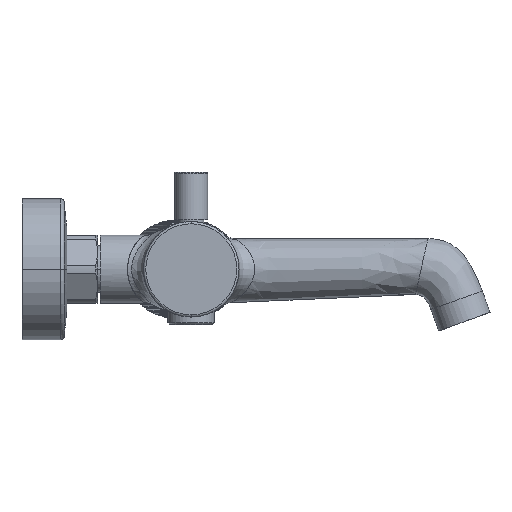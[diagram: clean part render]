
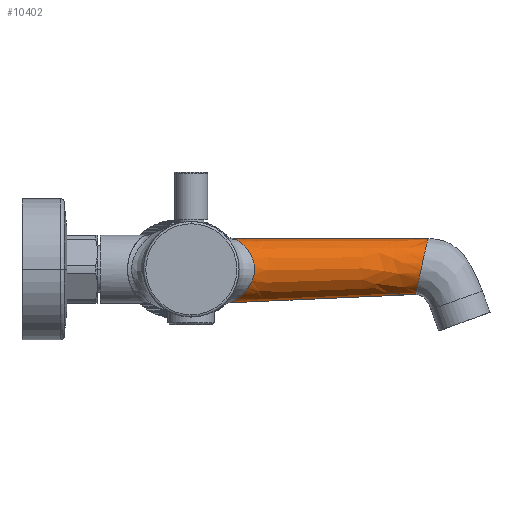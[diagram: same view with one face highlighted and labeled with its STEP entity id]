
A CAD part, front view. The second image highlights one B-rep face of the part: STEP entity #10402.
In plain terms, the highlighted free-form (B-spline) face has degree [3, 3] with [9, 4] control points.
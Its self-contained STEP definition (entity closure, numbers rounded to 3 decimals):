
#314=CARTESIAN_POINT('',(22.978,-31.145,135.271));
#315=CARTESIAN_POINT('',(23.118,-31.518,135.177));
#316=CARTESIAN_POINT('',(23.455,-32.3,134.948));
#317=CARTESIAN_POINT('',(24.135,-33.541,134.457));
#318=CARTESIAN_POINT('',(25.01,-34.866,133.772));
#319=CARTESIAN_POINT('',(26.056,-36.23,132.854));
#320=CARTESIAN_POINT('',(27.135,-37.494,131.755));
#321=CARTESIAN_POINT('',(28.128,-38.568,130.564));
#322=CARTESIAN_POINT('',(28.977,-39.444,129.339));
#323=CARTESIAN_POINT('',(29.668,-40.137,128.115));
#324=CARTESIAN_POINT('',(30.211,-40.672,126.905));
#325=CARTESIAN_POINT('',(30.614,-41.07,125.721));
#326=CARTESIAN_POINT('',(30.894,-41.351,124.557));
#327=CARTESIAN_POINT('',(31.06,-41.53,123.402));
#328=CARTESIAN_POINT('',(31.117,-41.612,122.257));
#329=CARTESIAN_POINT('',(31.069,-41.602,121.108));
#330=CARTESIAN_POINT('',(30.913,-41.499,119.949));
#331=CARTESIAN_POINT('',(30.638,-41.295,118.762));
#332=CARTESIAN_POINT('',(30.238,-40.98,117.555));
#333=CARTESIAN_POINT('',(29.701,-40.541,116.324));
#334=CARTESIAN_POINT('',(28.997,-39.951,115.051));
#335=CARTESIAN_POINT('',(28.121,-39.188,113.758));
#336=CARTESIAN_POINT('',(27.058,-38.225,112.463));
#337=CARTESIAN_POINT('',(25.819,-37.031,111.195));
#338=CARTESIAN_POINT('',(24.562,-35.714,110.106));
#339=CARTESIAN_POINT('',(23.489,-34.455,109.288));
#340=CARTESIAN_POINT('',(22.593,-33.252,108.668));
#341=CARTESIAN_POINT('',(21.878,-32.115,108.211));
#342=CARTESIAN_POINT('',(21.338,-31.041,107.884));
#343=CARTESIAN_POINT('',(20.965,-30.046,107.666));
#344=CARTESIAN_POINT('',(20.734,-29.132,107.536));
#345=CARTESIAN_POINT('',(20.618,-28.26,107.471));
#346=CARTESIAN_POINT('',(20.611,-27.694,107.467));
#347=CARTESIAN_POINT('',(20.623,-27.417,107.474));
#349=CARTESIAN_POINT('',(22.331,-28.037,135.689));
#350=CARTESIAN_POINT('',(22.334,-28.133,135.687));
#351=CARTESIAN_POINT('',(22.39,-29.2,135.652));
#352=CARTESIAN_POINT('',(22.633,-30.229,135.5));
#353=CARTESIAN_POINT('',(22.978,-31.145,135.271));
#355=DIRECTION('',(-1.,0.,0.));
#356=VECTOR('',#355,84.921);
#357=CARTESIAN_POINT('',(107.252,-28.054,135.688));
#358=LINE('',#357,#356);
#359=CARTESIAN_POINT('',(101.789,-27.729,111.106));
#360=CARTESIAN_POINT('',(101.79,-29.353,111.107));
#361=CARTESIAN_POINT('',(101.936,-32.601,111.767));
#362=CARTESIAN_POINT('',(102.555,-36.673,114.553));
#363=CARTESIAN_POINT('',(103.464,-39.342,118.641));
#364=CARTESIAN_POINT('',(104.521,-40.267,123.399));
#365=CARTESIAN_POINT('',(105.579,-39.342,128.157));
#366=CARTESIAN_POINT('',(106.487,-36.673,132.246));
#367=CARTESIAN_POINT('',(107.003,-33.279,134.566));
#368=CARTESIAN_POINT('',(107.21,-30.269,135.497));
#369=CARTESIAN_POINT('',(107.248,-28.757,135.669));
#370=CARTESIAN_POINT('',(107.252,-28.054,135.688));
#372=CARTESIAN_POINT('',(101.79,-27.401,111.11));
#373=CARTESIAN_POINT('',(101.79,-27.51,111.107));
#374=CARTESIAN_POINT('',(101.789,-27.62,111.106));
#375=CARTESIAN_POINT('',(101.789,-27.729,111.106));
#377=DIRECTION('',(-0.999,0.,-0.045));
#378=VECTOR('',#377,81.249);
#379=CARTESIAN_POINT('',(101.79,-27.401,111.11));
#380=LINE('',#379,#378);
#8521=CARTESIAN_POINT('',(101.79,-27.401,111.11));
#8522=CARTESIAN_POINT('',(20.623,-27.417,107.474));
#8523=VERTEX_POINT('',#8521);
#8524=VERTEX_POINT('',#8522);
#8525=CARTESIAN_POINT('',(107.252,-28.054,135.688));
#8526=CARTESIAN_POINT('',(22.331,-28.037,135.689));
#8527=VERTEX_POINT('',#8525);
#8528=VERTEX_POINT('',#8526);
#8538=VERTEX_POINT('',#353);
#8539=VERTEX_POINT('',#359);
#10353=CARTESIAN_POINT('',(18.88,-27.148,
135.68));
#10354=CARTESIAN_POINT('',(48.915,-27.196,
135.682));
#10355=CARTESIAN_POINT('',(78.95,-27.244,
135.683));
#10356=CARTESIAN_POINT('',(108.985,-27.292,
135.684));
#10357=CARTESIAN_POINT('',(18.88,-27.444,
135.692));
#10358=CARTESIAN_POINT('',(48.915,-27.478,
135.693));
#10359=CARTESIAN_POINT('',(78.95,-27.512,
135.693));
#10360=CARTESIAN_POINT('',(108.985,-27.546,
135.694));
#10361=CARTESIAN_POINT('',(18.88,-31.447,
135.734));
#10362=CARTESIAN_POINT('',(48.915,-31.291,
135.726));
#10363=CARTESIAN_POINT('',(78.95,-31.135,
135.719));
#10364=CARTESIAN_POINT('',(108.985,-30.979,
135.711));
#10365=CARTESIAN_POINT('',(18.88,-39.051,
132.386));
#10366=CARTESIAN_POINT('',(48.915,-38.529,
132.527));
#10367=CARTESIAN_POINT('',(78.95,-38.006,
132.668));
#10368=CARTESIAN_POINT('',(108.985,-37.484,
132.808));
#10369=CARTESIAN_POINT('',(18.88,-43.406,
121.199));
#10370=CARTESIAN_POINT('',(48.915,-42.661,
121.865));
#10371=CARTESIAN_POINT('',(78.95,-41.915,
122.531));
#10372=CARTESIAN_POINT('',(108.985,-41.169,
123.197));
#10373=CARTESIAN_POINT('',(18.88,-38.566,
110.213));
#10374=CARTESIAN_POINT('',(48.915,-38.034,
111.409));
#10375=CARTESIAN_POINT('',(78.95,-37.503,
112.604));
#10376=CARTESIAN_POINT('',(108.985,-36.971,
113.799));
#10377=CARTESIAN_POINT('',(18.88,-30.823,
107.202));
#10378=CARTESIAN_POINT('',(48.915,-30.655,
108.552));
#10379=CARTESIAN_POINT('',(78.95,-30.487,
109.901));
#10380=CARTESIAN_POINT('',(108.985,-30.319,
111.251));
#10381=CARTESIAN_POINT('',(18.88,-26.825,
107.418));
#10382=CARTESIAN_POINT('',(48.915,-26.848,
108.763));
#10383=CARTESIAN_POINT('',(78.95,-26.87,
110.109));
#10384=CARTESIAN_POINT('',(108.985,-26.892,
111.454));
#10385=CARTESIAN_POINT('',(18.88,-26.53,
107.443));
#10386=CARTESIAN_POINT('',(48.915,-26.566,
108.788));
#10387=CARTESIAN_POINT('',(78.95,-26.603,
110.132));
#10388=CARTESIAN_POINT('',(108.985,-26.639,
111.477));
#10389=B_SPLINE_SURFACE_WITH_KNOTS('',3,3,((#10353,#10354,#10355,#10356),
(#10357,#10358,#10359,#10360),(#10361,#10362,#10363,#10364),(#10365,#10366,
#10367,#10368),(#10369,#10370,#10371,#10372),(#10373,#10374,#10375,#10376),(
#10377,#10378,#10379,#10380),(#10381,#10382,#10383,#10384),(#10385,#10386,
#10387,#10388)),.UNSPECIFIED.,.F.,.F.,.F.,(4,1,1,1,1,1,4),(4,4),(
-0.02,0.,0.25,0.5,0.75,1.,1.02),(
0.14,0.947),.UNSPECIFIED.);
#10390=ORIENTED_EDGE('',*,*,#10346,.F.);
#10391=ORIENTED_EDGE('',*,*,#10097,.F.);
#10393=ORIENTED_EDGE('',*,*,#10392,.F.);
#10395=ORIENTED_EDGE('',*,*,#10394,.F.);
#10397=ORIENTED_EDGE('',*,*,#10396,.F.);
#10399=ORIENTED_EDGE('',*,*,#10398,.T.);
#10400=EDGE_LOOP('',(#10390,#10391,#10393,#10395,#10397,#10399));
#10401=FACE_OUTER_BOUND('',#10400,.F.);
#10402=ADVANCED_FACE('',(#10401),#10389,.T.);
#348=B_SPLINE_CURVE_WITH_KNOTS('',3,(#314,#315,#316,#317,#318,#319,#320,#321,
#322,#323,#324,#325,#326,#327,#328,#329,#330,#331,#332,#333,#334,#335,#336,#337,
#338,#339,#340,#341,#342,#343,#344,#345,#346,#347),.UNSPECIFIED.,.F.,.F.,(4,1,1,
1,1,1,1,1,1,1,1,1,1,1,1,1,1,1,1,1,1,1,1,1,1,1,1,1,1,1,1,4),(0.,
0.032,0.065,0.097,0.129,
0.161,0.194,0.226,0.258,
0.29,0.323,0.355,0.387,
0.419,0.452,0.484,0.516,
0.548,0.581,0.613,0.645,
0.677,0.71,0.742,0.774,
0.806,0.839,0.871,0.903,
0.935,0.968,1.),.UNSPECIFIED.);
#354=B_SPLINE_CURVE_WITH_KNOTS('',3,(#349,#350,#351,#352,#353),.UNSPECIFIED.,
.F.,.F.,(4,1,4),(0.,0.09,1.),.UNSPECIFIED.);
#371=B_SPLINE_CURVE_WITH_KNOTS('',3,(#359,#360,#361,#362,#363,#364,#365,#366,
#367,#368,#369,#370),.UNSPECIFIED.,.F.,.F.,(4,1,1,1,1,1,1,1,1,4),(0.,
0.126,0.252,0.378,0.504,
0.63,0.756,0.882,0.945,1.),
.UNSPECIFIED.);
#376=B_SPLINE_CURVE_WITH_KNOTS('',3,(#372,#373,#374,#375),.UNSPECIFIED.,.F.,.F.,
(4,4),(0.,1.),.UNSPECIFIED.);
#10097=EDGE_CURVE('',#8528,#8538,#354,.T.);
#10346=EDGE_CURVE('',#8538,#8524,#348,.T.);
#10392=EDGE_CURVE('',#8527,#8528,#358,.T.);
#10394=EDGE_CURVE('',#8539,#8527,#371,.T.);
#10396=EDGE_CURVE('',#8523,#8539,#376,.T.);
#10398=EDGE_CURVE('',#8523,#8524,#380,.T.);
